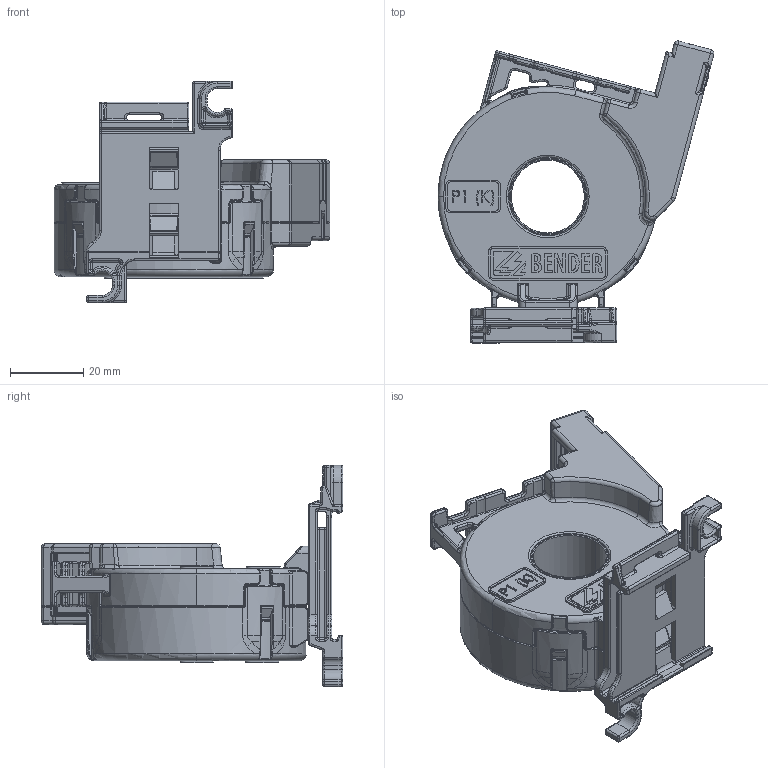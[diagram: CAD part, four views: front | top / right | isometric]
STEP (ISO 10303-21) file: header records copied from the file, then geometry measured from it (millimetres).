
FILE_DESCRIPTION (( 'STEP AP214' ), '1' );
FILE_NAME ('CTAC20.STEP', '2019-04-11T10:59:09', ( 'Administrator' ), ( '' ), 'SwSTEP 2.0', 'SolidWorks 2019', '' );
FILE_SCHEMA (( 'AUTOMOTIVE_DESIGN' ));
Length unit declared in the file: millimetre
Products named in the file (4): Z152490.02_Geh.CTAC20UT_W20UTS - RAL1003; Z152483.04_Montageclip_MCCT20; Z152491.01_Geh.CTxC20OT_W20OT; CTAC20
Assembly tree (3 placements, depth 2):
  CTAC20
    Z152483.04_Montageclip_MCCT20
    Z152490.02_Geh.CTAC20UT_W20UTS - RAL1003
    Z152491.01_Geh.CTxC20OT_W20OT
Bounding box: 75.44 x 82.51 x 60.5 mm (x, y, z)
Volume: 29848 mm3; surface area: 42453.2 mm2
Topology: 3 solids, 5 shells, 4370 faces, 10763 edges, 6289 vertices
Faces by surface type: cylinder 1245, plane 1183, bspline 1120, torus 604, sphere 202, cone 16
Entity records: 161533 total; most frequent: CARTESIAN_POINT 66797, ORIENTED_EDGE 20962, DIRECTION 18115, EDGE_CURVE 10481, AXIS2_PLACEMENT_3D 6733, VERTEX_POINT 6256, LINE 4649, VECTOR 4649
